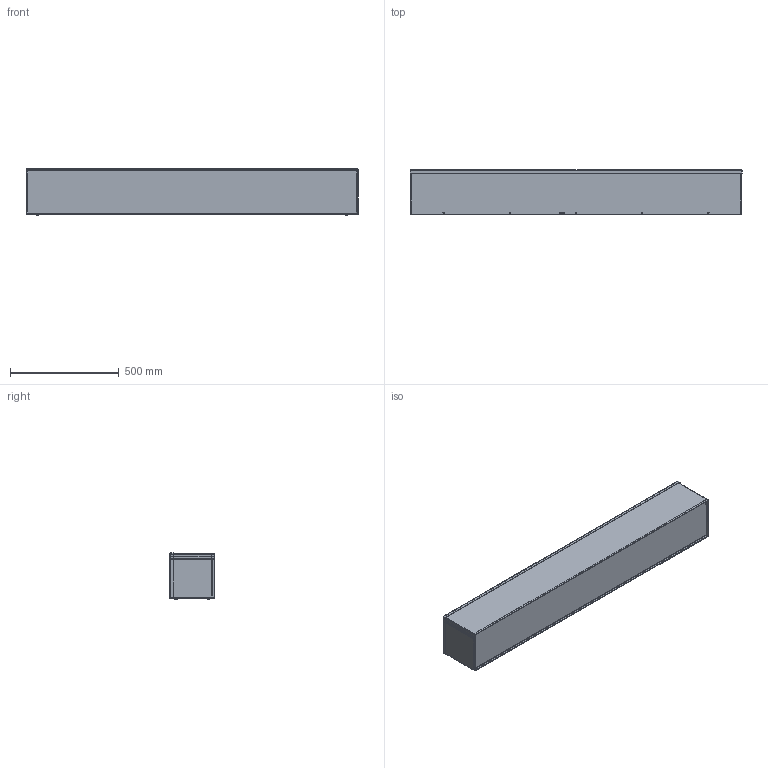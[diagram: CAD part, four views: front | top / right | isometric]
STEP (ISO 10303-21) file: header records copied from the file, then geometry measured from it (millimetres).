
FILE_DESCRIPTION((''),'2;1');
FILE_NAME('/scratch/bitterling/a00628/f-8860rtgv.stp', '2005-01-28T08:49:08',('User'),('SDRC'),'I-DEAS Master Series 9','UNIX', 'Yes');
FILE_SCHEMA(('AUTOMOTIVE_DESIGN { 1 0 10303 214 0 1 1 1 }'));
Length unit declared in the file: inch
Products named in the file (5): assy_3r_econo_trough_8x8x60; 87790899; 87790941; 87790939; 87790937
Assembly tree (4 placements, depth 2):
  assy_3r_econo_trough_8x8x60
    87790899
    87790941
    87790939
    87790937
Bounding box: 1528.52 x 205.03 x 212.01 mm (x, y, z)
Volume: 2603589.8 mm3; surface area: 2875283.3 mm2
Topology: 4 solids, 4 shells, 188 faces, 478 edges, 306 vertices
Faces by surface type: bspline 188
Entity records: 6110 total; most frequent: CARTESIAN_POINT 3014, ORIENTED_EDGE 956, EDGE_CURVE 478, VERTEX_POINT 306, QUASI_UNIFORM_CURVE 268, EDGE_LOOP 228, FACE_OUTER_BOUND 188, ADVANCED_FACE 188
